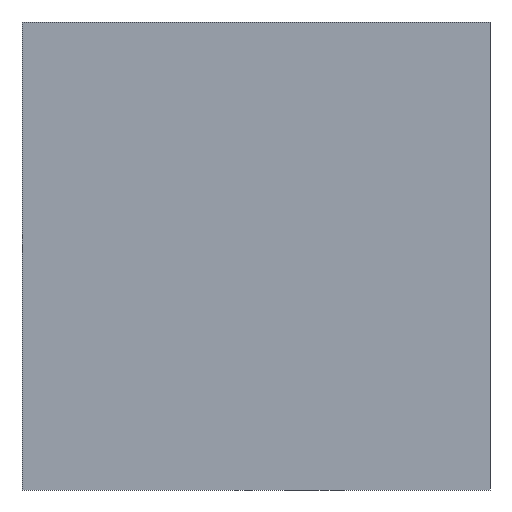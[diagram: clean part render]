
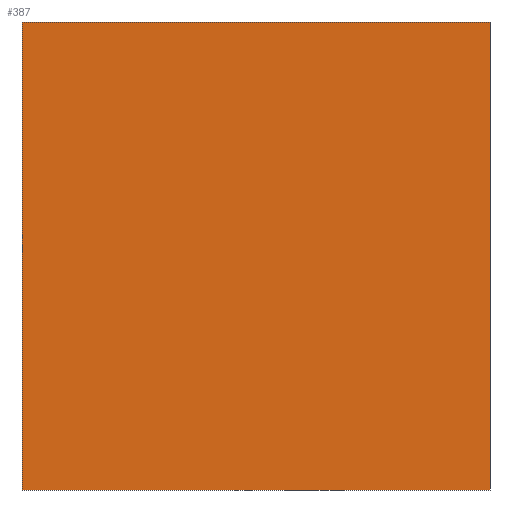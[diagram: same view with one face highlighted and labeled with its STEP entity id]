
A CAD part, front view. The second image highlights one B-rep face of the part: STEP entity #387.
In plain terms, the highlighted planar face has unit normal (0, -1, 0).
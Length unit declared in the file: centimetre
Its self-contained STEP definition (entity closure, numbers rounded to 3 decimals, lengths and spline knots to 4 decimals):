
#2 = LINE ( 'NONE', #177, #470 ) ;
#12 = CARTESIAN_POINT ( 'NONE',  ( 0., 0., 1000. ) ) ;
#26 = VERTEX_POINT ( 'NONE', #192 ) ;
#32 = LINE ( 'NONE', #325, #492 ) ;
#38 = EDGE_CURVE ( 'NONE', #353, #427, #446, .T. ) ;
#57 = VECTOR ( 'NONE', #302, 100. ) ;
#64 = AXIS2_PLACEMENT_3D ( 'NONE', #275, #531, #272 ) ;
#116 = VERTEX_POINT ( 'NONE', #286 ) ;
#117 = DIRECTION ( 'NONE',  ( 1., 0., 0. ) ) ;
#149 = EDGE_CURVE ( 'NONE', #26, #427, #32, .T. ) ;
#157 = ORIENTED_EDGE ( 'NONE', *, *, #149, .T. ) ;
#173 = EDGE_CURVE ( 'NONE', #116, #26, #2, .T. ) ;
#177 = CARTESIAN_POINT ( 'NONE',  ( 0., 0., 1000. ) ) ;
#192 = CARTESIAN_POINT ( 'NONE',  ( 0., 0., 0. ) ) ;
#272 = DIRECTION ( 'NONE',  ( 0., 0., 1. ) ) ;
#275 = CARTESIAN_POINT ( 'NONE',  ( 0., 0., 1000. ) ) ;
#286 = CARTESIAN_POINT ( 'NONE',  ( 0., 0., 1000. ) ) ;
#288 = EDGE_LOOP ( 'NONE', ( #157, #503, #423, #318 ) ) ;
#291 = DIRECTION ( 'NONE',  ( 0., 0., -1. ) ) ;
#297 = CARTESIAN_POINT ( 'NONE',  ( 1000., 0., 1000. ) ) ;
#302 = DIRECTION ( 'NONE',  ( 1., 0., 0. ) ) ;
#304 = EDGE_CURVE ( 'NONE', #116, #353, #520, .T. ) ;
#313 = DIRECTION ( 'NONE',  ( 0., 0., -1. ) ) ;
#318 = ORIENTED_EDGE ( 'NONE', *, *, #173, .T. ) ;
#325 = CARTESIAN_POINT ( 'NONE',  ( 0., 0., 0. ) ) ;
#336 = VECTOR ( 'NONE', #313, 100. ) ;
#353 = VERTEX_POINT ( 'NONE', #297 ) ;
#387 = ADVANCED_FACE ( 'NONE', ( #491 ), #533, .F. ) ;
#423 = ORIENTED_EDGE ( 'NONE', *, *, #304, .F. ) ;
#427 = VERTEX_POINT ( 'NONE', #527 ) ;
#446 = LINE ( 'NONE', #487, #336 ) ;
#470 = VECTOR ( 'NONE', #291, 100. ) ;
#487 = CARTESIAN_POINT ( 'NONE',  ( 1000., 0., 1000. ) ) ;
#491 = FACE_OUTER_BOUND ( 'NONE', #288, .T. ) ;
#492 = VECTOR ( 'NONE', #117, 100. ) ;
#503 = ORIENTED_EDGE ( 'NONE', *, *, #38, .F. ) ;
#520 = LINE ( 'NONE', #12, #57 ) ;
#527 = CARTESIAN_POINT ( 'NONE',  ( 1000., 0., 0. ) ) ;
#531 = DIRECTION ( 'NONE',  ( 0., 1., 0. ) ) ;
#533 = PLANE ( 'NONE',  #64 ) ;
